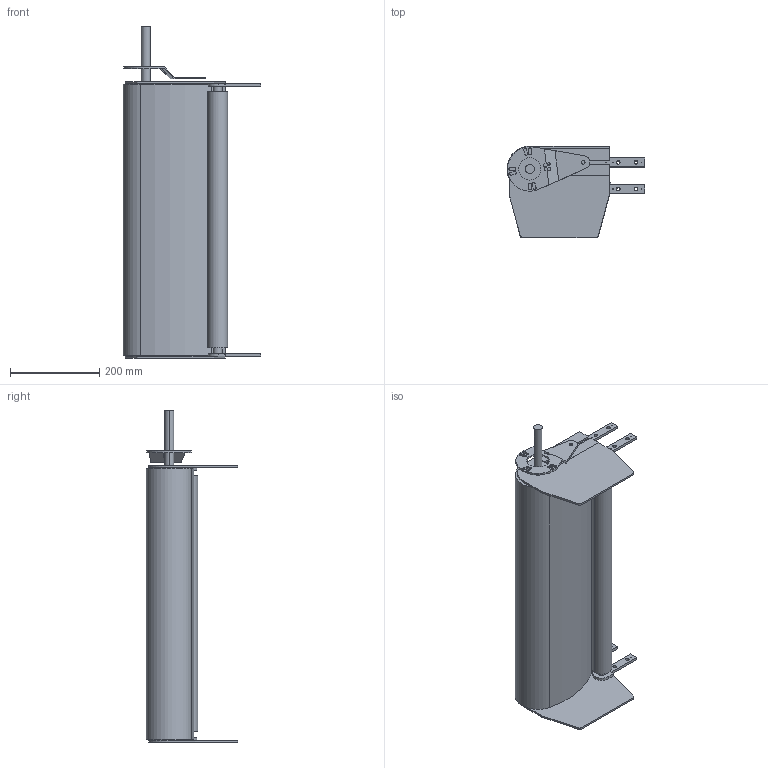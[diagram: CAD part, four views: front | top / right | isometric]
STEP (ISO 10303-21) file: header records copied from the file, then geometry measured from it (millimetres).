
FILE_DESCRIPTION (( 'STEP AP214' ), '1' );
FILE_NAME ('FS-620-MTS-100.ALU Left Drive section 20.STEP', '2017-02-08T09:31:58', ( '' ), ( '' ), 'SwSTEP 2.0', 'SolidWorks 2016', '' );
FILE_SCHEMA (( 'AUTOMOTIVE_DESIGN' ));
Length unit declared in the file: millimetre
Products named in the file (1): FS-620-MTS-100.ALU Left Drive section 20
Bounding box: 309.96 x 205 x 746 mm (x, y, z)
Volume: 4512570.1 mm3; surface area: 1037534.5 mm2
Topology: 3 solids, 3 shells, 236 faces, 689 edges, 456 vertices
Faces by surface type: plane 131, cylinder 105
Entity records: 8039 total; most frequent: CARTESIAN_POINT 1394, ORIENTED_EDGE 1378, DIRECTION 1365, EDGE_CURVE 689, LINE 479, VECTOR 479, VERTEX_POINT 456, AXIS2_PLACEMENT_3D 443
